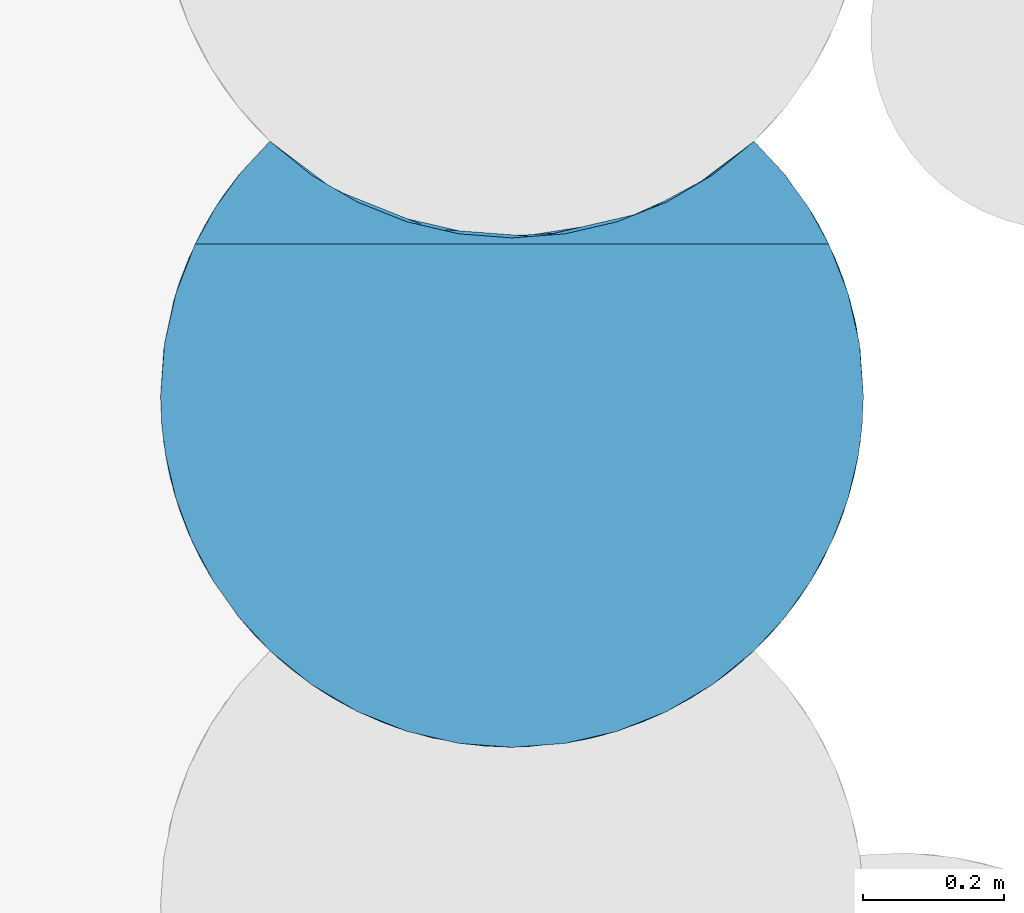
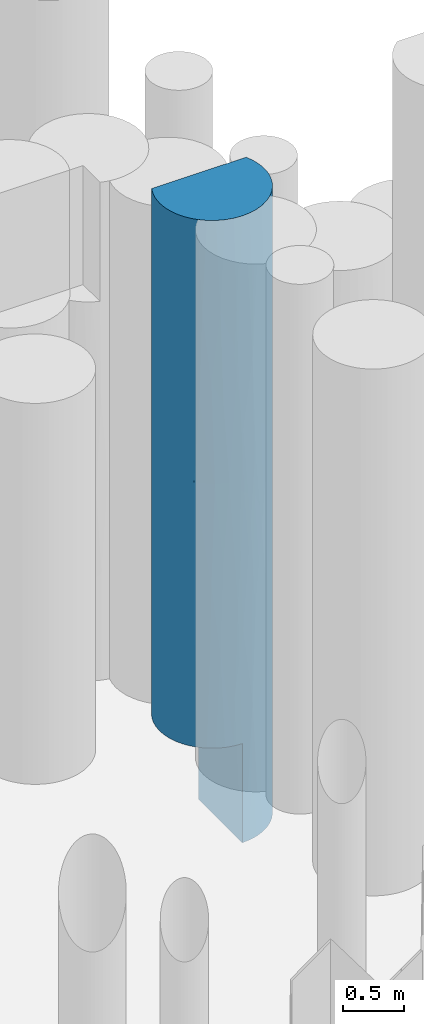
# One storey, part 93 of 104: 1 pile.
"""IFC2X3 building model written with IfcOpenShell, lengths in millimetres."""

from ifc_helpers import new_model, entity, si_unit, converted_unit, derived_unit, direction, frame, origin, place, context, subcontext, project, spatial, faceted_brep, source, transform, mapped, material, element, save


model = new_model("IFC2X3")

# Units and contexts
model_context = context("Model", 3, precision=0.01, world=origin(), true_north=direction((6.12303176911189e-17, 1.0)))
body_context = subcontext(model_context, "Body", "Model", "MODEL_VIEW")
ifc_project = project(units=[si_unit("LENGTHUNIT", "METRE", prefix="MILLI"), si_unit("AREAUNIT", "SQUARE_METRE", prefix="MILLI"), si_unit("VOLUMEUNIT", "CUBIC_METRE"), converted_unit("PLANEANGLEUNIT", "DEGREE", entity("IfcRatioMeasure", 0.0174532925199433), si_unit("PLANEANGLEUNIT", "RADIAN"), dimensions=[0, 0, 0, 0, 0, 0, 0]), si_unit("MASSUNIT", "GRAM", prefix="KILO"), derived_unit("MASSDENSITYUNIT", [(si_unit("MASSUNIT", "GRAM", prefix="KILO"), 1), (si_unit("LENGTHUNIT", "METRE"), -3)]), derived_unit("MOMENTOFINERTIAUNIT", [(si_unit("LENGTHUNIT", "METRE"), 4)]), si_unit("TIMEUNIT", "SECOND"), si_unit("FREQUENCYUNIT", "HERTZ"), si_unit("THERMODYNAMICTEMPERATUREUNIT", "DEGREE_CELSIUS"), derived_unit("THERMALTRANSMITTANCEUNIT", [(si_unit("MASSUNIT", "GRAM", prefix="KILO"), 1), (si_unit("THERMODYNAMICTEMPERATUREUNIT", "KELVIN"), -1), (si_unit("TIMEUNIT", "SECOND"), -3)]), derived_unit("VOLUMETRICFLOWRATEUNIT", [(si_unit("LENGTHUNIT", "METRE"), 3), (si_unit("TIMEUNIT", "SECOND"), -1)]), si_unit("ELECTRICCURRENTUNIT", "AMPERE"), si_unit("ELECTRICVOLTAGEUNIT", "VOLT"), si_unit("POWERUNIT", "WATT"), si_unit("FORCEUNIT", "NEWTON", prefix="KILO"), si_unit("ILLUMINANCEUNIT", "LUX"), si_unit("LUMINOUSFLUXUNIT", "LUMEN"), si_unit("LUMINOUSINTENSITYUNIT", "CANDELA"), derived_unit("USERDEFINED", [(si_unit("MASSUNIT", "GRAM", prefix="KILO"), -1), (si_unit("LENGTHUNIT", "METRE"), -2), (si_unit("TIMEUNIT", "SECOND"), 3), (si_unit("LUMINOUSFLUXUNIT", "LUMEN"), 1)]), derived_unit("LINEARVELOCITYUNIT", [(si_unit("LENGTHUNIT", "METRE"), 1), (si_unit("TIMEUNIT", "SECOND"), -1)]), si_unit("PRESSUREUNIT", "PASCAL"), derived_unit("USERDEFINED", [(si_unit("LENGTHUNIT", "METRE"), -2), (si_unit("MASSUNIT", "GRAM", prefix="KILO"), 1), (si_unit("TIMEUNIT", "SECOND"), -2)]), derived_unit("LINEARFORCEUNIT", [(si_unit("MASSUNIT", "GRAM", prefix="KILO"), 1), (si_unit("LENGTHUNIT", "METRE"), 1), (si_unit("TIMEUNIT", "SECOND"), -2), (si_unit("LENGTHUNIT", "METRE"), -1)]), derived_unit("PLANARFORCEUNIT", [(si_unit("MASSUNIT", "GRAM", prefix="KILO"), 1), (si_unit("LENGTHUNIT", "METRE"), 1), (si_unit("TIMEUNIT", "SECOND"), -2), (si_unit("LENGTHUNIT", "METRE"), -2)])], contexts=[model_context])

# Site, building, storey
site_placement = place(None, origin())
site = spatial("IfcSite", under=ifc_project, at=site_placement, Name="Theater aan de Parade", CompositionType="ELEMENT")
building_placement = place(site_placement, origin())
building = spatial("IfcBuilding", under=site, at=building_placement, Name="Theater aan de Parade", CompositionType="ELEMENT")
storey_placement = place(building_placement, frame((0.0, 0.0, -5520.0)))
storey = spatial("IfcBuildingStorey", under=building, at=storey_placement, Name="-2 kelder", CompositionType="ELEMENT", Elevation=-5520.0)

# Pile
ifc_material = material(Name="00_PBT_MAT_grout")
shared_shape = source(origin(), body_context, "Body", "Brep", [
    faceted_brep([(787.130615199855, 816.144827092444, 0.0), (845.969705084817, 864.095272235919, 0.0), (891.687703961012, 814.369783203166, 0.0), (930.274616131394, 758.954981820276, 0.0), (961.041980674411, 698.848211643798, 0.0), (983.430865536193, 635.140998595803, 0.0), (997.031356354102, 568.99769469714, 0.0), (1001.59527223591, 501.595272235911, 0.0), (997.031356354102, 434.192849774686, 0.0), (983.430865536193, 368.04954587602, 0.0), (961.041980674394, 304.342332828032, 0.0), (930.274616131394, 244.235562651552, 0.0), (891.687703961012, 188.820761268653, 0.0), (845.989800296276, 139.11729173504, 0.0), (787.141739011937, 91.152565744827, 0.0), (721.721625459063, 52.6583182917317, 0.0), (651.227602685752, 24.5102004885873, 0.0), (577.284625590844, 7.35735201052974, 0.0), (501.595272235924, 1.5952722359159, 0.0), (501.595272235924, 726.595272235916, 0.0), (577.2794271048, 732.356555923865, 0.0), (651.219430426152, 749.507637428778, 0.0), (721.71132485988, 777.65326776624, 0.0), (938.57637779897, 744.592213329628, 4641.46664898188), (845.969705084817, 864.095272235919, 4458.46213272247), (887.337179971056, 819.719745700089, 6020.0), (1001.59527223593, 501.595272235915, 3123.07544587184), (988.730305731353, 614.287149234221, 2026.12047250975), (992.414958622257, 596.968410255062, 2916.91685839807), (929.084787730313, 760.926554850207, 953.565506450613), (973.313138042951, 667.373000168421, 1002.17422413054), (946.674115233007, 729.421573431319, 1847.8595612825), (845.969705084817, 864.095272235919, 1448.46213272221), (845.969705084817, 864.09527223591, 1561.53770626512), (845.969705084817, 864.095272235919, 2896.92426544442), (1001.59527223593, 501.595272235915, 1561.53772293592), (982.917625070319, 636.979143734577, 5141.99777723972), (952.52058721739, 717.619253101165, 6020.0), (982.965012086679, 636.810558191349, 3740.53473322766), (929.255311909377, 760.645249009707, 3348.17482981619), (845.969705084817, 864.09527223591, 4571.53770626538), (845.969705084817, 864.095272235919, 6020.0), (979.580505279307, 648.32671737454, 6320.0), (923.020616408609, 770.669015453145, 6020.0), (996.060657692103, 575.784102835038, 6320.0), (1001.59527223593, 501.595272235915, 4758.46227706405), (1001.59527223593, 501.595272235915, 6320.0), (1001.59527223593, 501.595272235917, 3940.76886146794), (952.52058721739, 717.619253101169, 6320.0), (967.016836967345, 684.304787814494, 3032.28580108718), (1001.59527223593, 501.595272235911, 2379.2311470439), (845.969705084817, 864.09527223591, 3123.07541253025), (1001.59527223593, 501.595272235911, 3196.92458817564), (111.502840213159, 188.820761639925, 1000.0), (133.521162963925, 163.185092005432, 2311.91204203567), (56.5164285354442, 273.768972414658, 1901.56248812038), (185.721015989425, 114.008566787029, 5386.07724645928), (168.298967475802, 128.88415993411, 4481.40281581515), (248.025974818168, 70.6630137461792, 4674.25070999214), (316.180315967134, 37.2448722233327, 5386.06383596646), (281.467956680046, 52.6587901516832, 6320.0), (1.5952722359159, 501.595272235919, 1780.7908281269), (1.5952722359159, 501.595272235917, 1000.0), (6.1591881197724, 434.192849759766, 1000.0), (927.440548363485, 239.57275259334, 4480.97086382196), (909.021519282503, 211.761089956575, 5323.78945894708), (868.534562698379, 161.95493730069, 4468.71063001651), (929.59743078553, 243.110935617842, 1147.10151488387), (999.811564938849, 459.398996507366, 6320.0), (19.7596790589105, 368.049545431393, 1000.0), (22.9836990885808, 356.9199044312, 1821.9110395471), (29.8774063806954, 335.81754444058, 2625.18988264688), (16.4947352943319, 380.444667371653, 4598.29075640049), (15.1061366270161, 386.146924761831, 5483.6023131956), (1.5952722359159, 501.595272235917, 4758.48064502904), (248.027328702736, 70.6622170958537, 2645.755066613), (235.430984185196, 78.326360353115, 1814.59589658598), (316.18100588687, 37.2445967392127, 1933.93607603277), (988.084509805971, 386.147354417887, 5422.2030022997), (979.66881681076, 355.151815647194, 6320.0), (959.22013303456, 300.151764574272, 5484.54772593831), (42.1485639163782, 304.34233255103, 1000.0), (134.655717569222, 161.955222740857, 3659.99723447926), (157.220839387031, 139.095272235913, 1000.0), (755.164131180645, 70.6627557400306, 4940.67596994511), (721.72212126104, 52.6585613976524, 6320.0), (614.581587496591, 14.5284466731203, 5417.99250278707), (869.669381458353, 163.185091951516, 922.277772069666), (802.803962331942, 102.504649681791, 818.222461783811), (281.468918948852, 52.6583183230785, 1000.0), (76.4090129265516, 238.504708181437, 6320.0), (46.2143559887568, 295.129243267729, 6320.0), (60.4023188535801, 266.33206243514, 4744.51783270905), (351.962546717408, 24.5103243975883, 6320.0), (501.595272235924, 1.5952722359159, 1000.0), (463.641090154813, 3.03787327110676, 2398.71546639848), (425.905918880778, 7.35735201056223, 1000.0), (76.5687673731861, 238.246700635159, 2851.50435122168), (40.7435856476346, 307.647539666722, 3708.4184161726), (889.581956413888, 186.212436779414, 6320.0), (926.781458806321, 238.504590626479, 6320.0), (946.674116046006, 273.768972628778, 2322.30662580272), (990.511516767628, 396.90092743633, 2277.99797892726), (974.117251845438, 338.123627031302, 3419.15506248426), (804.518551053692, 103.804514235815, 2489.51640139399), (892.714888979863, 190.106194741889, 1884.25352685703), (888.490588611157, 184.874552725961, 3190.83386741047), (3.37894086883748, 459.399453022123, 6320.0), (23.5217873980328, 355.151620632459, 6320.0), (8.69780238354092, 417.618583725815, 6320.0), (956.976200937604, 295.129270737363, 6320.0), (72.9159282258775, 244.2355628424, 1000.0), (113.99117853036, 185.742353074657, 5126.52890394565), (501.594998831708, 1.59527223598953, 6320.0), (463.641133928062, 3.03786993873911, 4921.28425162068), (12.0520052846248, 399.873151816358, 3358.95720400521), (157.216906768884, 139.099008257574, 6320.0), (216.047106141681, 91.1537479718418, 6320.0), (969.286398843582, 324.776127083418, 4684.06648299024), (338.709134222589, 28.8711391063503, 2848.82682961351), (425.906275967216, 7.35729732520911, 6320.0), (523.32576006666, 2.06770953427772, 3526.37190860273), (606.761699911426, 12.7803558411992, 2452.35383924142), (632.556625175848, 19.0508452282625, 3443.94228305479), (602.465586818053, 11.8757814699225, 907.858201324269), (687.00953868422, 37.2445967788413, 1376.83208187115), (817.466623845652, 114.006199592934, 1637.83175234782), (993.538835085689, 412.199908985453, 4621.61178895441), (651.227487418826, 24.510164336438, 6320.0), (973.313138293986, 335.817545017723, 1223.41242457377), (717.747152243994, 50.7312519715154, 2284.30551905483), (706.631399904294, 45.5687528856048, 4137.45809079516), (795.301075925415, 96.9511064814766, 4050.33542799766), (577.283730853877, 7.3572149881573, 6320.0), (272.596422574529, 57.1185834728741, 3660.00472295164), (839.684006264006, 133.225881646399, 5358.22142806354), (338.707699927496, 28.871633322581, 4471.16856355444), (787.143029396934, 91.1534634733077, 6320.0), (216.048805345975, 91.1525658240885, 1000.0), (388.608457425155, 14.5285625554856, 3660.00021775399), (614.581587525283, 14.5284466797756, 4450.79386935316), (845.973296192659, 139.098683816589, 6320.0), (994.492856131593, 417.619253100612, 6320.0), (826.660877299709, 121.684292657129, 3314.08041960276), (1.5952722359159, 501.595272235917, 6320.0), (1.5952722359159, 501.595272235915, 5539.22513016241), (351.96294176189, 24.5102004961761, 1000.0), (113.608394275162, 186.212675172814, 6320.0), (939.277962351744, 259.864300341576, 3144.31462059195), (1.5952722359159, 501.595272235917, 4123.07307461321), (1.5952722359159, 501.595272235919, 3342.29820477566), (1.5952722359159, 501.595272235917, 3196.93013941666), (1.59527223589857, 501.595272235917, 2561.53653730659), (755.163215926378, 70.662217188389, 3159.99971975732), (50.6699572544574, 717.619253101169, 6320.0), (23.609849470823, 648.326099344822, 6320.0), (7.12990149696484, 575.784200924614, 6320.0), (787.130615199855, 816.144827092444, 6020.0), (721.71132485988, 777.65326776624, 6020.0), (651.219430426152, 749.507637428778, 6020.0), (577.2794271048, 732.356555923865, 6020.0), (501.595272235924, 726.595272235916, 6020.0), (425.911117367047, 732.356555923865, 6020.0), (351.971114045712, 749.507637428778, 6020.0), (281.479219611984, 777.653267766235, 6020.0), (216.05992927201, 816.144827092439, 6020.0), (157.220839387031, 864.09527223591, 6020.0), (115.858768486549, 819.72629819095, 6020.0), (80.1690447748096, 770.667632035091, 6020.0), (50.6699572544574, 717.619253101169, 6020.0), (687.000234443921, 762.240881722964, 5074.60411020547), (755.152432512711, 795.655872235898, 1074.20186333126), (248.038112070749, 795.655872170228, 1922.41757195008), (316.190310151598, 762.240881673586, 2619.07137290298), (328.625461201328, 757.466884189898, 1798.29627311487), (463.643712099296, 728.037673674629, 2230.72857512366), (501.595272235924, 726.595272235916, 1000.0), (425.911117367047, 732.356555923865, 1000.0), (655.826891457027, 750.977140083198, 1004.19870033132), (579.430869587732, 732.690808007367, 1761.36599980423), (388.615190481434, 739.527000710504, 5097.58242807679), (248.03811205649, 795.655872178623, 5097.58242793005), (281.479219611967, 777.653267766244, 1000.0), (216.059929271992, 816.144827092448, 1000.0), (539.546832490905, 728.037673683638, 4692.18572552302), (463.64371211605, 728.037673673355, 3510.0), (316.190310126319, 762.240881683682, 4400.92862686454), (288.920675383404, 774.08061407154, 3510.0), (231.213914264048, 806.00768176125, 4217.5571485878), (374.185085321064, 743.101069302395, 3278.6188618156), (157.220839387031, 864.09527223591, 4458.46229263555), (770.627353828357, 805.143330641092, 3580.65440839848), (157.220839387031, 864.095272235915, 1780.76885368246), (233.095191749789, 804.804202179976, 2842.97094296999), (771.944827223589, 805.987238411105, 2532.60237933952), (687.000234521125, 762.240881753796, 1962.11063412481), (687.000234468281, 762.240881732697, 4066.82638608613), (764.637181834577, 801.378911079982, 4570.71524824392), (587.939400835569, 734.107006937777, 2870.36428764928), (588.729705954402, 734.246218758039, 3838.25261165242), (351.971114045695, 749.507637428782, 1000.0), (157.220839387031, 864.095272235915, 1000.0), (688.521088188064, 762.851011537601, 3081.16689066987), (157.220839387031, 864.095272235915, 2896.92458527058), (157.220839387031, 864.095272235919, 1948.46207753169), (111.511270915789, 814.380297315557, 1000.0), (91.2780023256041, 787.321956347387, 2151.77752051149), (82.2203306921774, 773.85371270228, 3293.08120872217), (24.4967367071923, 651.184668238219, 4035.64984530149), (64.6137668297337, 744.591494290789, 4641.45856660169), (29.8739557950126, 667.363181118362, 1941.05344644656), (29.8739557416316, 667.36318096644, 2932.01257946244), (42.1460278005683, 698.842304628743, 1000.0), (19.7558369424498, 635.127135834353, 1000.0), (72.9183066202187, 758.958943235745, 1000.0), (20.2729911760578, 636.979398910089, 5142.00119831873), (6.15621561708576, 568.975841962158, 1000.0)], [[[0, 1, 2, 3, 4, 5, 6, 7, 8, 9, 10, 11, 12, 13, 14, 15, 16, 17, 18, 19, 20, 21, 22]], [[23, 24, 25]], [[26, 27, 28]], [[29, 30, 4]], [[4, 3, 29]], [[31, 32, 33, 34]], [[6, 5, 30]], [[7, 6, 35]], [[27, 30, 31]], [[36, 23, 37]], [[23, 36, 38]], [[1, 32, 2]], [[39, 23, 38]], [[25, 24, 40, 41]], [[31, 30, 29]], [[32, 29, 2]], [[37, 42, 36]], [[35, 30, 27]], [[37, 23, 43]], [[5, 4, 30]], [[36, 44, 45]], [[44, 46, 45]], [[39, 24, 23]], [[23, 25, 43]], [[44, 36, 42]], [[38, 45, 47]], [[37, 48, 42]], [[38, 47, 28]], [[6, 30, 35]], [[39, 31, 34]], [[39, 38, 49]], [[27, 26, 50, 35]], [[28, 49, 38]], [[39, 34, 51, 24]], [[2, 29, 3]], [[32, 31, 29]], [[45, 38, 36]], [[28, 47, 52, 26]], [[27, 31, 49]], [[27, 49, 28]], [[31, 39, 49]], [[53, 54, 55]], [[56, 57, 58]], [[56, 59, 60]], [[61, 62, 63]], [[64, 65, 66]], [[12, 11, 67]], [[45, 46, 68]], [[63, 69, 70]], [[71, 70, 55]], [[72, 73, 74]], [[75, 76, 77]], [[78, 79, 80]], [[55, 70, 81]], [[75, 82, 54]], [[76, 54, 83]], [[84, 85, 86]], [[87, 88, 13]], [[89, 77, 76]], [[90, 91, 92]], [[53, 83, 54]], [[59, 93, 60]], [[94, 95, 96]], [[71, 97, 98]], [[99, 65, 100]], [[101, 102, 103]], [[104, 105, 106]], [[107, 74, 73]], [[108, 109, 73]], [[67, 101, 105]], [[98, 97, 82]], [[79, 110, 80]], [[55, 81, 111]], [[92, 82, 112]], [[58, 59, 56]], [[86, 113, 114]], [[72, 74, 115]], [[116, 56, 117]], [[60, 117, 56]], [[64, 118, 80]], [[80, 100, 65]], [[96, 95, 77]], [[77, 119, 75]], [[93, 59, 120]], [[8, 7, 35]], [[121, 122, 123]], [[17, 124, 94]], [[88, 15, 14]], [[80, 118, 78]], [[61, 71, 115]], [[88, 125, 15]], [[94, 18, 17]], [[53, 55, 111]], [[68, 78, 45]], [[124, 16, 125]], [[126, 88, 87]], [[127, 78, 118]], [[73, 91, 108]], [[86, 85, 128]], [[102, 129, 35]], [[101, 129, 102]], [[129, 10, 9]], [[122, 121, 95]], [[130, 126, 104]], [[8, 35, 129]], [[129, 67, 10]], [[131, 132, 84]], [[81, 70, 69]], [[112, 90, 92]], [[114, 113, 120]], [[128, 133, 86]], [[75, 119, 134]], [[66, 135, 132]], [[125, 16, 15]], [[135, 66, 65]], [[87, 13, 12]], [[114, 59, 136]], [[137, 85, 84]], [[134, 82, 75]], [[10, 67, 11]], [[137, 84, 135]], [[55, 97, 71]], [[83, 138, 76]], [[121, 139, 95]], [[127, 45, 78]], [[114, 140, 86]], [[99, 135, 65]], [[141, 135, 99]], [[121, 114, 139]], [[79, 78, 142]], [[124, 122, 94]], [[78, 68, 142]], [[106, 143, 104]], [[8, 129, 9]], [[107, 144, 145, 74]], [[97, 55, 54]], [[77, 89, 146]], [[105, 126, 87]], [[96, 77, 146]], [[119, 95, 139]], [[112, 116, 147]], [[112, 82, 57]], [[136, 59, 58]], [[120, 59, 114]], [[86, 133, 113]], [[84, 86, 140]], [[54, 82, 97]], [[98, 82, 92]], [[72, 98, 92]], [[115, 71, 98]], [[67, 105, 87]], [[105, 101, 106]], [[148, 101, 103]], [[66, 132, 143]], [[92, 91, 73]], [[115, 74, 149, 150, 151, 152, 61]], [[73, 109, 107]], [[92, 73, 72]], [[102, 35, 50, 26, 52]], [[127, 52, 47, 45]], [[52, 103, 102]], [[103, 118, 64]], [[95, 119, 77]], [[139, 136, 134]], [[139, 134, 119]], [[134, 58, 57]], [[134, 136, 58]], [[114, 136, 139]], [[137, 135, 141]], [[132, 135, 84]], [[57, 56, 112]], [[134, 57, 82]], [[116, 112, 56]], [[90, 112, 147]], [[67, 87, 12]], [[101, 67, 129]], [[100, 80, 110]], [[64, 80, 65]], [[118, 103, 127]], [[52, 127, 103]], [[94, 122, 95]], [[114, 121, 140]], [[130, 125, 126]], [[121, 123, 140]], [[71, 61, 70]], [[63, 70, 61]], [[66, 106, 64]], [[64, 106, 148]], [[125, 88, 126]], [[13, 88, 14]], [[72, 115, 98]], [[54, 76, 75]], [[89, 76, 138]], [[130, 123, 122]], [[153, 132, 131]], [[84, 140, 131]], [[143, 132, 153]], [[140, 123, 131]], [[153, 131, 123]], [[104, 143, 153]], [[66, 143, 106]], [[104, 153, 130]], [[105, 104, 126]], [[123, 130, 153]], [[122, 125, 130]], [[16, 124, 17]], [[122, 124, 125]], [[64, 148, 103]], [[106, 101, 148]], [[44, 42, 48, 154, 155, 156, 144, 107, 109, 108, 91, 90, 147, 116, 117, 60, 93, 120, 113, 133, 128, 85, 137, 141, 99, 100, 110, 79, 142, 68, 46]], [[157, 158, 159, 160, 161, 162, 163, 164, 165, 166, 167, 168, 169, 37, 43, 25, 41]], [[154, 48, 37, 169]], [[160, 159, 170]], [[171, 33, 32, 1]], [[172, 173, 174]], [[175, 176, 177]], [[21, 178, 22]], [[173, 175, 174]], [[175, 179, 176]], [[180, 181, 164, 163]], [[182, 183, 172]], [[180, 184, 185]], [[170, 184, 160]], [[158, 157, 170]], [[186, 187, 188]], [[181, 180, 186]], [[189, 187, 186]], [[181, 190, 166]], [[191, 40, 24, 51]], [[162, 180, 163]], [[192, 193, 172]], [[20, 19, 176]], [[33, 171, 194]], [[0, 171, 1]], [[21, 20, 178]], [[195, 171, 178]], [[179, 178, 176]], [[170, 196, 184]], [[178, 171, 22]], [[189, 185, 175]], [[191, 197, 40]], [[161, 180, 162]], [[185, 198, 175]], [[165, 164, 181]], [[22, 171, 0]], [[175, 177, 174]], [[161, 160, 184]], [[51, 194, 191]], [[198, 185, 199]], [[159, 158, 170]], [[186, 188, 181]], [[40, 157, 41]], [[170, 157, 197]], [[182, 174, 200]], [[183, 201, 192]], [[196, 170, 197]], [[186, 180, 185]], [[184, 180, 161]], [[165, 181, 166]], [[190, 181, 188]], [[193, 173, 172]], [[172, 183, 192]], [[202, 194, 195]], [[199, 202, 198]], [[191, 196, 197]], [[40, 197, 157]], [[202, 199, 196]], [[191, 202, 196]], [[195, 194, 171]], [[194, 51, 34, 33]], [[198, 202, 195]], [[202, 191, 194]], [[188, 203, 190]], [[173, 193, 187]], [[203, 188, 193]], [[173, 187, 189]], [[187, 193, 188]], [[193, 192, 204, 203]], [[173, 189, 175]], [[185, 189, 186]], [[195, 178, 179]], [[176, 178, 20]], [[179, 198, 195]], [[198, 179, 175]], [[172, 174, 182]], [[177, 200, 174]], [[199, 184, 196]], [[184, 199, 185]], [[205, 206, 204]], [[207, 208, 209]], [[206, 210, 211]], [[210, 212, 213]], [[209, 168, 167]], [[206, 205, 214]], [[168, 209, 169]], [[203, 206, 207]], [[215, 149, 74, 145]], [[206, 214, 210]], [[167, 166, 190]], [[156, 215, 145]], [[216, 62, 61, 152]], [[215, 169, 209]], [[190, 209, 167]], [[211, 210, 152, 151, 150]], [[207, 206, 211]], [[155, 169, 215]], [[205, 204, 192, 201]], [[169, 155, 154]], [[208, 215, 209]], [[152, 210, 216]], [[215, 156, 155]], [[207, 190, 203]], [[210, 214, 212]], [[210, 213, 216]], [[144, 156, 145]], [[208, 207, 211]], [[190, 207, 209]], [[206, 203, 204]], [[149, 215, 208]], [[150, 208, 211]], [[150, 149, 208]], [[214, 205, 201, 183, 182, 200, 177, 176, 94, 96, 146, 89, 138, 83, 53, 111, 81, 69, 63, 62, 216, 213, 212]], [[94, 176, 19, 18]]]),
])
pile_placement = place(storey_placement, frame((86298.4047277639, 18852.3807468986, -3840.0)))
element("IfcPile", 1, at=pile_placement, inside=storey, material=ifc_material, Name="17_PBT_SFO_grondkering_rond:Ø1000 (grondkering)", ObjectType="17_PBT_SFO_grondkering_rond:Ø1000 (grondkering)", PredefinedType="NOTDEFINED", context=body_context, shape_type="MappedRepresentation", body=[
    mapped(shared_shape, transform((0.0, 0.0, 0.0), scale=1.0)),
])

save(model, "model.ifc")
